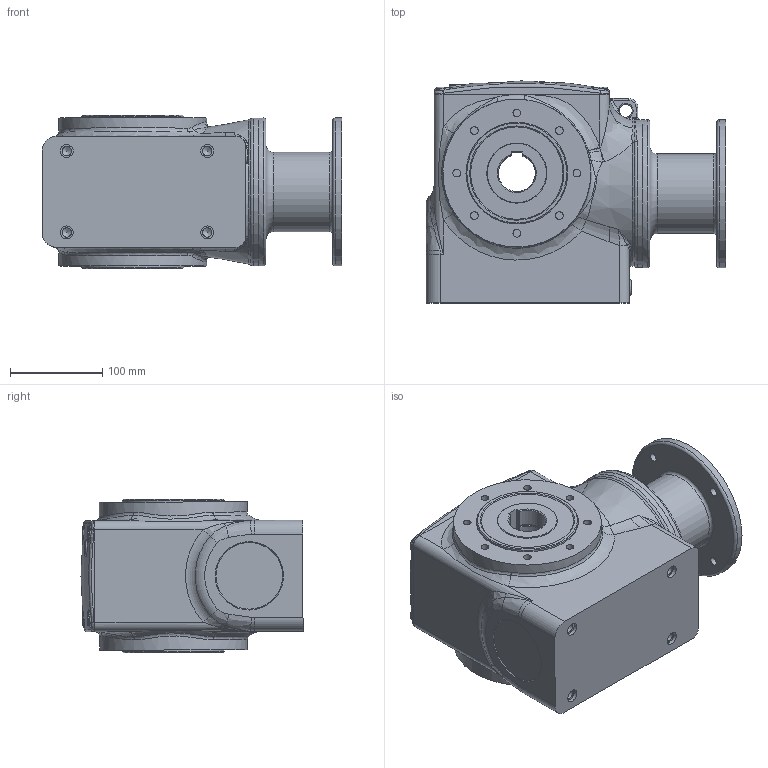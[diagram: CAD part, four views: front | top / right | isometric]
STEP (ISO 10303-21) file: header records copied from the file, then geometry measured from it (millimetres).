
FILE_DESCRIPTION(/* description */ (''),/* implementation_level */ '2;1');
FILE_NAME(/* name */ 'Z:\Dertec\RVS pakket tekeningen\Kasten\FSA + FS serie\FSA\FSA68\Step Customer\FSA68 HA40 AMFL 100B14A #.stp',/* time_stamp */ '2017-12-08T12:21:03+01:00',/* author */ ('Dertec'),/* organization */ (''),/* preprocessor_version */ 'ST-DEVELOPER v16.1',/* originating_system */ 'Autodesk Inventor 2016',/* authorisation */ '');
FILE_SCHEMA (('AUTOMOTIVE_DESIGN { 1 0 10303 214 3 1 1 }'));
Length unit declared in the file: inch
Products named in the file (1): Part77
Bounding box: 324 x 240.13 x 166.24 mm (x, y, z)
Volume: 6572719.6 mm3; surface area: 490332.2 mm2
Topology: 1 solids, 5 shells, 510 faces, 1136 edges, 698 vertices
Faces by surface type: cylinder 148, plane 143, bspline 122, torus 51, cone 44, sphere 2
Full cylindrical faces by diameter (mm): 4.134 x8, 5.5 x8, 6.647 x4, 8.376 x16, 8.917 x1, 9 x8, 10.106 x4, 11 x8, 14 x5, 46 x1, 47 x1, 64.9 x4, 65 x2, 66 x1, 68 x2, 68.4 x1, 69 x1, 71 x1, 72 x1, 74.3 x1, 86 x1, 100 x3, 103.5 x2, 110 x3, 114 x1, 116.1 x1, 117 x1, 119.1 x1, 160 x4
Entity records: 20244 total; most frequent: CARTESIAN_POINT 9922, DIRECTION 1891, ORIENTED_EDGE 1856, EDGE_CURVE 928, AXIS2_PLACEMENT_3D 855, EDGE_LOOP 751, VERTEX_POINT 651, FACE_OUTER_BOUND 510
